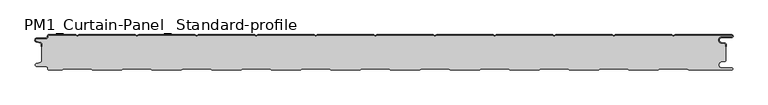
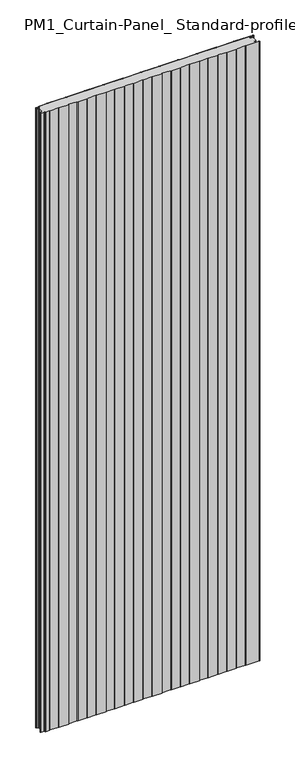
"""IFC4 building model written with IfcOpenShell, lengths in millimetres: plate geometry, PM1_Curtain-Panel_ Standard-profile : ACH_PM1_Acoustic-Sectioning-Panel_60M."""

from ifc_helpers import new_model, si_unit, point, frame, frame_2d, origin, origin_with_axes, place, context, project, spatial, polyline, circle_curve, trimmed, segment, composite_curve, outline, extrude, source, transform, mapped, element, save
from ifc_brep_helpers import plane_surface, cylinder_surface, revolved_surface, advanced_brep


def pm1_curtain_panel_standard_profile_64459d4c(model_context):
    return source(origin(), model_context, "Body", "SolidModel", [
        advanced_brep(
        [(-575.0, -15.878557, 3500.0), (-575.0, -20.0, 3500.0), (-574.2, -20.0, 3500.0), (-574.2, -15.878557, 3500.0), (-576.370137, -13.1503208, 3500.0), (-582.529863, -11.728236, 3500.0), (-581.9, -6.2, 3500.0), (-566.4, -6.2, 3500.0), (-563.6, -3.4, 3500.0), (-563.6, -2.0, 3500.0), (-562.4, -0.8, 3500.0), (-517.3143588, -0.8, 3500.0), (-514.4, -2.482606, 3500.0), (-511.4856412, -0.8, 3500.0), (-417.3143588, -0.8, 3500.0), (-414.4, -2.482606, 3500.0), (-411.4856412, -0.8, 3500.0), (-317.3143588, -0.8, 3500.0), (-314.4, -2.482606, 3500.0), (-311.4856412, -0.8, 3500.0), (-217.3143588, -0.8, 3500.0), (-214.4, -2.482606, 3500.0), (-211.4856412, -0.8, 3500.0), (-117.3143588, -0.8, 3500.0), (-114.4, -2.482606, 3500.0), (-111.4856412, -0.8, 3500.0), (-17.3143588, -0.8, 3500.0), (-14.4, -2.482606, 3500.0), (-11.4856412, -0.8, 3500.0), (82.6856412, -0.8, 3500.0), (85.6, -2.482606, 3500.0), (88.5143588, -0.8, 3500.0), (182.6856412, -0.8, 3500.0), (185.6, -2.482606, 3500.0), (188.5143588, -0.8, 3500.0), (282.6856412, -0.8, 3500.0), (285.6, -2.482606, 3500.0), (288.5143588, -0.8, 3500.0), (382.6856412, -0.8, 3500.0), (385.6, -2.482606, 3500.0), (388.5143588, -0.8, 3500.0), (482.6856412, -0.8, 3500.0), (485.6, -2.482606, 3500.0), (488.5143588, -0.8, 3500.0), (583.1, -0.8, 3500.0), (583.1, -4.2, 3500.0), (566.1, -4.2, 3500.0), (565.2664884, -13.7270771, 3500.0), (571.7125669, -14.8636953, 3500.0), (573.2, -16.6363492, 3500.0), (573.2, -20.0, 3500.0), (574.0, -20.0, 3500.0), (574.0, -16.6363492, 3500.0), (571.8514855, -14.0758491, 3500.0), (565.405407, -12.939231, 3500.0), (566.1, -5.0, 3500.0), (583.1, -5.0, 3500.0), (585.6, -2.5, 3500.0), (583.1, 0.0, 3500.0), (488.2999995, 0.0, 3500.0), (485.6, -1.5588455, 3500.0), (482.9000005, 0.0, 3500.0), (388.2999995, 0.0, 3500.0), (385.6, -1.5588455, 3500.0), (382.9000005, 0.0, 3500.0), (288.2999995, 0.0, 3500.0), (285.6, -1.5588455, 3500.0), (282.9000005, 0.0, 3500.0), (188.2999995, 0.0, 3500.0), (185.6, -1.5588455, 3500.0), (182.9000005, 0.0, 3500.0), (88.2999995, 0.0, 3500.0), (85.6, -1.5588455, 3500.0), (82.9000005, 0.0, 3500.0), (-11.7000005, 0.0, 3500.0), (-14.4, -1.5588455, 3500.0), (-17.0999995, 0.0, 3500.0), (-111.7000005, 0.0, 3500.0), (-114.4, -1.5588455, 3500.0), (-117.0999995, 0.0, 3500.0), (-211.7000005, 0.0, 3500.0), (-214.4, -1.5588455, 3500.0), (-217.0999995, 0.0, 3500.0), (-311.7000005, 0.0, 3500.0), (-314.4, -1.5588455, 3500.0), (-317.0999995, 0.0, 3500.0), (-411.7000005, 0.0, 3500.0), (-414.4, -1.5588455, 3500.0), (-417.0999995, 0.0, 3500.0), (-511.7000005, 0.0, 3500.0), (-514.4, -1.5588455, 3500.0), (-517.0999995, 0.0, 3500.0), (-562.4, 0.0, 3500.0), (-564.4, -2.0, 3500.0), (-564.4, -3.4, 3500.0), (-566.4, -5.4, 3500.0), (-581.9, -5.4, 3500.0), (-582.7098239, -12.5077322, 3500.0), (-576.5500979, -13.929817, 3500.0), (-575.0, -15.878557, 0.0), (-576.5500978, -13.9298169, 0.0), (-582.7098239, -12.507732, 0.0), (-581.9, -5.4, 0.0), (-566.4, -5.4, 0.0), (-564.4, -3.4, 0.0), (-564.4, -2.0, 0.0), (-562.4, 0.0, 0.0), (-517.0999995, 0.0, 0.0), (-514.4, -1.5588455, 0.0), (-511.7000005, 0.0, 0.0), (-417.0999995, 0.0, 0.0), (-414.4, -1.5588455, 0.0), (-411.7000005, 0.0, 0.0), (-317.0999995, 0.0, 0.0), (-314.4, -1.5588455, 0.0), (-311.7000005, 0.0, 0.0), (-217.0999995, 0.0, 0.0), (-214.4, -1.5588455, 0.0), (-211.7000005, 0.0, 0.0), (-117.0999995, 0.0, 0.0), (-114.4, -1.5588455, 0.0), (-111.7000005, 0.0, 0.0), (-17.0999995, 0.0, 0.0), (-14.4, -1.5588455, 0.0), (-11.7000005, 0.0, 0.0), (82.9000005, 0.0, 0.0), (85.6, -1.5588455, 0.0), (88.2999995, 0.0, 0.0), (182.9000005, 0.0, 0.0), (185.6, -1.5588455, 0.0), (188.2999995, 0.0, 0.0), (282.9000005, 0.0, 0.0), (285.6, -1.5588455, 0.0), (288.2999995, 0.0, 0.0), (382.9000005, 0.0, 0.0), (385.6, -1.5588455, 0.0), (388.2999995, 0.0, 0.0), (482.9000005, 0.0, 0.0), (485.6, -1.5588455, 0.0), (488.2999995, 0.0, 0.0), (583.1, 0.0, 0.0), (585.6, -2.5, 0.0), (583.1, -5.0, 0.0), (566.1, -5.0, 0.0), (565.405407, -12.939231, 0.0), (571.8514855, -14.0758491, 0.0), (574.0, -16.6363492, 0.0), (574.0, -20.0, 0.0), (573.2, -20.0, 0.0), (573.2, -16.6363492, 0.0), (571.7125669, -14.8636953, 0.0), (565.2664884, -13.7270772, 0.0), (566.1, -4.2, 0.0), (583.1, -4.2, 0.0), (583.1, -0.8, 0.0), (488.5143588, -0.8, 0.0), (485.6, -2.482606, 0.0), (482.6856412, -0.8, 0.0), (388.5143588, -0.8, 0.0), (385.6, -2.482606, 0.0), (382.6856412, -0.8, 0.0), (288.5143588, -0.8, 0.0), (285.6, -2.482606, 0.0), (282.6856412, -0.8, 0.0), (188.5143588, -0.8, 0.0), (185.6, -2.482606, 0.0), (182.6856412, -0.8, 0.0), (88.5143588, -0.8, 0.0), (85.6, -2.482606, 0.0), (82.6856412, -0.8, 0.0), (-11.4856412, -0.8, 0.0), (-14.4, -2.482606, 0.0), (-17.3143588, -0.8, 0.0), (-111.4856412, -0.8, 0.0), (-114.4, -2.482606, 0.0), (-117.3143588, -0.8, 0.0), (-211.4856412, -0.8, 0.0), (-214.4, -2.482606, 0.0), (-217.3143588, -0.8, 0.0), (-311.4856412, -0.8, 0.0), (-314.4, -2.482606, 0.0), (-317.3143588, -0.8, 0.0), (-411.4856412, -0.8, 0.0), (-414.4, -2.482606, 0.0), (-417.3143588, -0.8, 0.0), (-511.4856412, -0.8, 0.0), (-514.4, -2.482606, 0.0), (-517.3143588, -0.8, 0.0), (-562.4, -0.8, 0.0), (-563.6, -2.0, 0.0), (-563.6, -3.4, 0.0), (-566.4, -6.2, 0.0), (-581.9, -6.2, 0.0), (-582.529863, -11.7282362, 0.0), (-576.370137, -13.150321, 0.0), (-574.2, -15.878557, 0.0), (-574.2, -20.0, 0.0), (-575.0, -20.0, 0.0)],
        [
            (0, 1),
            (1, 2),
            (2, 3),
            (3, 4, circle_curve(frame((-577.0, -15.878557, 3500.0), z_axis=(0.0, 0.0, 1.0), x_axis=(1.0, 0.0, 0.0)), 2.8)),
            (4, 5),
            (5, 6, circle_curve(frame((-581.9, -9.0, 3500.0), z_axis=(0.0, 0.0, -1.0), x_axis=(1.0, 0.0, 0.0)), 2.8)),
            (6, 7),
            (7, 8, circle_curve(frame((-566.4, -3.4, 3500.0), z_axis=(0.0, 0.0, 1.0), x_axis=(1.0, 0.0, 0.0)), 2.8)),
            (8, 9),
            (9, 10, circle_curve(frame((-562.4, -2.0, 3500.0), z_axis=(0.0, 0.0, -1.0), x_axis=(1.0, 0.0, 0.0)), 1.2)),
            (10, 11),
            (11, 12),
            (12, 13),
            (13, 14),
            (14, 15),
            (15, 16),
            (16, 17),
            (17, 18),
            (18, 19),
            (19, 20),
            (20, 21),
            (21, 22),
            (22, 23),
            (23, 24),
            (24, 25),
            (25, 26),
            (26, 27),
            (27, 28),
            (28, 29),
            (29, 30),
            (30, 31),
            (31, 32),
            (32, 33),
            (33, 34),
            (34, 35),
            (35, 36),
            (36, 37),
            (37, 38),
            (38, 39),
            (39, 40),
            (40, 41),
            (41, 42),
            (42, 43),
            (43, 44),
            (44, 45, circle_curve(frame((583.1, -2.5, 3500.0), z_axis=(0.0, 0.0, -1.0), x_axis=(1.0, 0.0, 0.0)), 1.7)),
            (45, 46),
            (46, 47, circle_curve(frame((566.1, -9.0, 3500.0), z_axis=(0.0, 0.0, 1.0), x_axis=(1.0, 0.0, 0.0)), 4.8)),
            (47, 48),
            (48, 49, circle_curve(frame((571.4, -16.6363492, 3500.0), z_axis=(0.0, 0.0, -1.0), x_axis=(1.0, 0.0, 0.0)), 1.8)),
            (49, 50),
            (50, 51),
            (51, 52),
            (52, 53, circle_curve(frame((571.4, -16.6363492, 3500.0), z_axis=(0.0, 0.0, 1.0), x_axis=(1.0, 0.0, 0.0)), 2.6)),
            (53, 54),
            (54, 55, circle_curve(frame((566.1, -9.0, 3500.0), z_axis=(0.0, 0.0, -1.0), x_axis=(1.0, 0.0, 0.0)), 4.0)),
            (55, 56),
            (56, 57, circle_curve(frame((583.1, -2.5, 3500.0), z_axis=(0.0, 0.0, 1.0), x_axis=(1.0, 0.0, 0.0)), 2.5)),
            (57, 58, circle_curve(frame((583.1, -2.5, 3500.0), z_axis=(0.0, 0.0, 1.0), x_axis=(1.0, 0.0, 0.0)), 2.5)),
            (58, 59),
            (59, 60),
            (60, 61),
            (61, 62),
            (62, 63),
            (63, 64),
            (64, 65),
            (65, 66),
            (66, 67),
            (67, 68),
            (68, 69),
            (69, 70),
            (70, 71),
            (71, 72),
            (72, 73),
            (73, 74),
            (74, 75),
            (75, 76),
            (76, 77),
            (77, 78),
            (78, 79),
            (79, 80),
            (80, 81),
            (81, 82),
            (82, 83),
            (83, 84),
            (84, 85),
            (85, 86),
            (86, 87),
            (87, 88),
            (88, 89),
            (89, 90),
            (90, 91),
            (91, 92),
            (92, 93, circle_curve(frame((-562.4, -2.0, 3500.0), z_axis=(0.0, 0.0, 1.0), x_axis=(1.0, 0.0, 0.0)), 2.0)),
            (93, 94),
            (94, 95, circle_curve(frame((-566.4, -3.4, 3500.0), z_axis=(0.0, 0.0, -1.0), x_axis=(1.0, 0.0, 0.0)), 2.0)),
            (95, 96),
            (96, 97, circle_curve(frame((-581.9, -9.0, 3500.0), z_axis=(0.0, 0.0, 1.0), x_axis=(1.0, 0.0, 0.0)), 3.6)),
            (97, 98),
            (98, 0, circle_curve(frame((-577.0, -15.878557, 3500.0), z_axis=(0.0, 0.0, -1.0), x_axis=(1.0, 0.0, 0.0)), 2.0)),
            (99, 100, circle_curve(frame((-577.0, -15.878557, 0.0), z_axis=(0.0, 0.0, 1.0), x_axis=(1.0, 0.0, 0.0)), 2.0)),
            (100, 101),
            (101, 102, circle_curve(frame((-581.9, -9.0, 0.0), z_axis=(0.0, 0.0, -1.0), x_axis=(1.0, 0.0, 0.0)), 3.6)),
            (102, 103),
            (103, 104, circle_curve(frame((-566.4, -3.4, 0.0), z_axis=(0.0, 0.0, 1.0), x_axis=(1.0, 0.0, 0.0)), 2.0)),
            (104, 105),
            (105, 106, circle_curve(frame((-562.4, -2.0, 0.0), z_axis=(0.0, 0.0, -1.0), x_axis=(1.0, 0.0, 0.0)), 2.0)),
            (106, 107),
            (107, 108),
            (108, 109),
            (109, 110),
            (110, 111),
            (111, 112),
            (112, 113),
            (113, 114),
            (114, 115),
            (115, 116),
            (116, 117),
            (117, 118),
            (118, 119),
            (119, 120),
            (120, 121),
            (121, 122),
            (122, 123),
            (123, 124),
            (124, 125),
            (125, 126),
            (126, 127),
            (127, 128),
            (128, 129),
            (129, 130),
            (130, 131),
            (131, 132),
            (132, 133),
            (133, 134),
            (134, 135),
            (135, 136),
            (136, 137),
            (137, 138),
            (138, 139),
            (139, 140),
            (140, 141, circle_curve(frame((583.1, -2.5, 0.0), z_axis=(0.0, 0.0, -1.0), x_axis=(1.0, 0.0, 0.0)), 2.5)),
            (141, 142, circle_curve(frame((583.1, -2.5, 0.0), z_axis=(0.0, 0.0, -1.0), x_axis=(1.0, 0.0, 0.0)), 2.5)),
            (142, 143),
            (143, 144, circle_curve(frame((566.1, -9.0, 0.0), z_axis=(0.0, 0.0, 1.0), x_axis=(1.0, 0.0, 0.0)), 4.0)),
            (144, 145),
            (145, 146, circle_curve(frame((571.4, -16.6363492, 0.0), z_axis=(0.0, 0.0, -1.0), x_axis=(1.0, 0.0, 0.0)), 2.6)),
            (146, 147),
            (147, 148),
            (148, 149),
            (149, 150, circle_curve(frame((571.4, -16.6363492, 0.0), z_axis=(0.0, 0.0, 1.0), x_axis=(1.0, 0.0, 0.0)), 1.8)),
            (150, 151),
            (151, 152, circle_curve(frame((566.1, -9.0, 0.0), z_axis=(0.0, 0.0, -1.0), x_axis=(1.0, 0.0, 0.0)), 4.8)),
            (152, 153),
            (153, 154, circle_curve(frame((583.1, -2.5, 0.0), z_axis=(0.0, 0.0, 1.0), x_axis=(1.0, 0.0, 0.0)), 1.7)),
            (154, 155),
            (155, 156),
            (156, 157),
            (157, 158),
            (158, 159),
            (159, 160),
            (160, 161),
            (161, 162),
            (162, 163),
            (163, 164),
            (164, 165),
            (165, 166),
            (166, 167),
            (167, 168),
            (168, 169),
            (169, 170),
            (170, 171),
            (171, 172),
            (172, 173),
            (173, 174),
            (174, 175),
            (175, 176),
            (176, 177),
            (177, 178),
            (178, 179),
            (179, 180),
            (180, 181),
            (181, 182),
            (182, 183),
            (183, 184),
            (184, 185),
            (185, 186),
            (186, 187),
            (187, 188),
            (188, 189, circle_curve(frame((-562.4, -2.0, 0.0), z_axis=(0.0, 0.0, 1.0), x_axis=(1.0, 0.0, 0.0)), 1.2)),
            (189, 190),
            (190, 191, circle_curve(frame((-566.4, -3.4, 0.0), z_axis=(0.0, 0.0, -1.0), x_axis=(1.0, 0.0, 0.0)), 2.8)),
            (191, 192),
            (192, 193, circle_curve(frame((-581.9, -9.0, 0.0), z_axis=(0.0, 0.0, 1.0), x_axis=(1.0, 0.0, 0.0)), 2.8)),
            (193, 194),
            (194, 195, circle_curve(frame((-577.0, -15.878557, 0.0), z_axis=(0.0, 0.0, -1.0), x_axis=(1.0, 0.0, 0.0)), 2.8)),
            (195, 196),
            (196, 197),
            (197, 99),
            (0, 99),
            (197, 1),
            (196, 2),
            (195, 3),
            (194, 4),
            (193, 5),
            (192, 6),
            (191, 7),
            (190, 8),
            (189, 9),
            (188, 10),
            (187, 11),
            (186, 12),
            (185, 13),
            (184, 14),
            (183, 15),
            (182, 16),
            (181, 17),
            (180, 18),
            (179, 19),
            (178, 20),
            (177, 21),
            (176, 22),
            (175, 23),
            (174, 24),
            (173, 25),
            (172, 26),
            (171, 27),
            (170, 28),
            (169, 29),
            (168, 30),
            (167, 31),
            (166, 32),
            (165, 33),
            (164, 34),
            (163, 35),
            (162, 36),
            (161, 37),
            (160, 38),
            (159, 39),
            (158, 40),
            (157, 41),
            (156, 42),
            (155, 43),
            (154, 44),
            (153, 45),
            (152, 46),
            (151, 47),
            (150, 48),
            (149, 49),
            (148, 50),
            (147, 51),
            (146, 52),
            (145, 53),
            (144, 54),
            (143, 55),
            (142, 56),
            (140, 58),
            (139, 59),
            (138, 60),
            (137, 61),
            (136, 62),
            (135, 63),
            (134, 64),
            (133, 65),
            (132, 66),
            (131, 67),
            (130, 68),
            (129, 69),
            (128, 70),
            (127, 71),
            (126, 72),
            (125, 73),
            (124, 74),
            (123, 75),
            (122, 76),
            (121, 77),
            (120, 78),
            (119, 79),
            (118, 80),
            (117, 81),
            (116, 82),
            (115, 83),
            (114, 84),
            (113, 85),
            (112, 86),
            (111, 87),
            (110, 88),
            (109, 89),
            (108, 90),
            (107, 91),
            (106, 92),
            (105, 93),
            (104, 94),
            (103, 95),
            (102, 96),
            (101, 97),
            (100, 98),
        ],
        [
            plane_surface(frame((-575.0, 0.0, 3500.0), z_axis=(0.0, 0.0, 1.0), x_axis=(0.0, 1.0, 0.0))),
            plane_surface(frame((-575.0, 0.0, 0.0), z_axis=(0.0, 0.0, -1.0), x_axis=(0.0, 1.0, 0.0))),
            plane_surface(frame((-575.0, -15.878557, 3500.0), z_axis=(-1.0, 0.0, 0.0), x_axis=(0.0, 0.0, -1.0))),
            plane_surface(frame((-575.0, -20.0, 3500.0), z_axis=(0.0, -1.0, 0.0), x_axis=(0.0, 0.0, -1.0))),
            plane_surface(frame((-574.2, -20.0, 3500.0), z_axis=(1.0, 0.0, 0.0), x_axis=(0.0, 0.0, -1.0))),
            cylinder_surface(frame((-577.0, -15.878557, 3500.0), z_axis=(0.0, 0.0, 1.0), x_axis=(1.0, 0.0, 0.0)), 2.8),
            plane_surface(frame((-576.370137, -13.150321, 3500.0), z_axis=(0.22495108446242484, 0.9743700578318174, 0.0), x_axis=(0.0, 0.0, -1.0))),
            revolved_surface(polyline([(-579.1, -9.0, 0.0), (-579.1, -9.0, 3500.0)]), (-581.9, -9.0, 3500.0), (0.0, 0.0, -1.0)),
            plane_surface(frame((-581.9, -6.2, 3500.0), z_axis=(0.0, -1.0, 0.0), x_axis=(0.0, 0.0, -1.0))),
            cylinder_surface(frame((-566.4, -3.4, 3500.0), z_axis=(0.0, 0.0, 1.0), x_axis=(1.0, 0.0, 0.0)), 2.8),
            plane_surface(frame((-563.6, -3.4, 3500.0), z_axis=(1.0, 0.0, 0.0), x_axis=(0.0, 0.0, -1.0))),
            revolved_surface(polyline([(-561.1999999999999, -2.0, 0.0), (-561.1999999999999, -2.0, 3500.0)]), (-562.4, -2.0, 3500.0), (0.0, 0.0, -1.0)),
            plane_surface(frame((-562.4, -0.8, 3500.0), z_axis=(0.0, -1.0, 0.0), x_axis=(0.0, 0.0, -1.0))),
            plane_surface(frame((-517.3143588, -0.8, 3500.0), z_axis=(-0.5000000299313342, -0.8660253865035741, 0.0), x_axis=(0.0, 0.0, -1.0))),
            plane_surface(frame((-514.4, -2.482606, 3500.0), z_axis=(0.5000000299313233, -0.8660253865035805, 0.0), x_axis=(0.0, 0.0, -1.0))),
            plane_surface(frame((-511.4856412, -0.8, 3500.0), z_axis=(0.0, -1.0, 0.0), x_axis=(0.0, 0.0, -1.0))),
            plane_surface(frame((-417.3143588, -0.8, 3500.0), z_axis=(-0.5000000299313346, -0.8660253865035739, 0.0), x_axis=(0.0, 0.0, -1.0))),
            plane_surface(frame((-414.4, -2.482606, 3500.0), z_axis=(0.5000000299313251, -0.8660253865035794, 0.0), x_axis=(0.0, 0.0, -1.0))),
            plane_surface(frame((-411.4856412, -0.8, 3500.0), z_axis=(0.0, -1.0, 0.0), x_axis=(0.0, 0.0, -1.0))),
            plane_surface(frame((-317.3143588, -0.8, 3500.0), z_axis=(-0.5000000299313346, -0.866025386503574, 0.0), x_axis=(0.0, 0.0, -1.0))),
            plane_surface(frame((-314.4, -2.482606, 3500.0), z_axis=(0.5000000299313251, -0.8660253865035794, 0.0), x_axis=(0.0, 0.0, -1.0))),
            plane_surface(frame((-311.4856412, -0.8, 3500.0), z_axis=(0.0, -1.0, 0.0), x_axis=(0.0, 0.0, -1.0))),
            plane_surface(frame((-217.3143588, -0.8, 3500.0), z_axis=(-0.5000000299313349, -0.8660253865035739, 0.0), x_axis=(0.0, 0.0, -1.0))),
            plane_surface(frame((-214.4, -2.482606, 3500.0), z_axis=(0.5000000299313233, -0.8660253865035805, 0.0), x_axis=(0.0, 0.0, -1.0))),
            plane_surface(frame((-211.4856412, -0.8, 3500.0), z_axis=(0.0, -1.0, 0.0), x_axis=(0.0, 0.0, -1.0))),
            plane_surface(frame((-117.3143588, -0.8, 3500.0), z_axis=(-0.5000000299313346, -0.866025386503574, 0.0), x_axis=(0.0, 0.0, -1.0))),
            plane_surface(frame((-114.4, -2.482606, 3500.0), z_axis=(0.5000000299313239, -0.8660253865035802, 0.0), x_axis=(0.0, 0.0, -1.0))),
            plane_surface(frame((-111.4856412, -0.8, 3500.0), z_axis=(0.0, -1.0, 0.0), x_axis=(0.0, 0.0, -1.0))),
            plane_surface(frame((-17.3143588, -0.8, 3500.0), z_axis=(-0.5000000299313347, -0.8660253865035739, 0.0), x_axis=(0.0, 0.0, -1.0))),
            plane_surface(frame((-14.4, -2.482606, 3500.0), z_axis=(0.5000000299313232, -0.8660253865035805, 0.0), x_axis=(0.0, 0.0, -1.0))),
            plane_surface(frame((-11.4856412, -0.8, 3500.0), z_axis=(0.0, -1.0, 0.0), x_axis=(0.0, 0.0, -1.0))),
            plane_surface(frame((82.6856412, -0.8, 3500.0), z_axis=(-0.5000000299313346, -0.866025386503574, 0.0), x_axis=(0.0, 0.0, -1.0))),
            plane_surface(frame((85.6, -2.482606, 3500.0), z_axis=(0.5000000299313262, -0.8660253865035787, 0.0), x_axis=(0.0, 0.0, -1.0))),
            plane_surface(frame((88.5143588, -0.8, 3500.0), z_axis=(0.0, -1.0, 0.0), x_axis=(0.0, 0.0, -1.0))),
            plane_surface(frame((182.6856412, -0.8, 3500.0), z_axis=(-0.5000000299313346, -0.8660253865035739, 0.0), x_axis=(0.0, 0.0, -1.0))),
            plane_surface(frame((185.6, -2.482606, 3500.0), z_axis=(0.5000000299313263, -0.8660253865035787, 0.0), x_axis=(0.0, 0.0, -1.0))),
            plane_surface(frame((188.5143588, -0.8, 3500.0), z_axis=(0.0, -1.0, 0.0), x_axis=(0.0, 0.0, -1.0))),
            plane_surface(frame((282.6856412, -0.8, 3500.0), z_axis=(-0.5000000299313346, -0.8660253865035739, 0.0), x_axis=(0.0, 0.0, -1.0))),
            plane_surface(frame((285.6, -2.482606, 3500.0), z_axis=(0.5000000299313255, -0.8660253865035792, 0.0), x_axis=(0.0, 0.0, -1.0))),
            plane_surface(frame((288.5143588, -0.8, 3500.0), z_axis=(0.0, -1.0, 0.0), x_axis=(0.0, 0.0, -1.0))),
            plane_surface(frame((382.6856412, -0.8, 3500.0), z_axis=(-0.5000000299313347, -0.8660253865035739, 0.0), x_axis=(0.0, 0.0, -1.0))),
            plane_surface(frame((385.6, -2.482606, 3500.0), z_axis=(0.5000000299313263, -0.8660253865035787, 0.0), x_axis=(0.0, 0.0, -1.0))),
            plane_surface(frame((388.5143588, -0.8, 3500.0), z_axis=(0.0, -1.0, 0.0), x_axis=(0.0, 0.0, -1.0))),
            plane_surface(frame((482.6856412, -0.8, 3500.0), z_axis=(-0.5000000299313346, -0.866025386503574, 0.0), x_axis=(0.0, 0.0, -1.0))),
            plane_surface(frame((485.6, -2.482606, 3500.0), z_axis=(0.5000000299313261, -0.8660253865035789, 0.0), x_axis=(0.0, 0.0, -1.0))),
            plane_surface(frame((535.6, -0.8, 3500.0), z_axis=(0.0, -1.0, 0.0), x_axis=(0.0, 0.0, -1.0))),
            revolved_surface(polyline([(584.8000000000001, -2.5, 0.0), (584.8000000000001, -2.5, 3500.0)]), (583.1, -2.5, 3500.0), (0.0, 0.0, -1.0)),
            plane_surface(frame((583.1, -4.2, 3500.0), z_axis=(0.0, 1.0, 0.0), x_axis=(0.0, 0.0, -1.0))),
            cylinder_surface(frame((566.1, -9.0, 3500.0), z_axis=(0.0, 0.0, 1.0), x_axis=(1.0, 0.0, 0.0)), 4.8),
            plane_surface(frame((565.2664884, -13.7270772, 3500.0), z_axis=(-0.17364825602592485, -0.9848077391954, 0.0), x_axis=(0.0, 0.0, -1.0))),
            revolved_surface(polyline([(573.1999999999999, -16.6363492, 0.0), (573.1999999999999, -16.6363492, 3500.0)]), (571.4, -16.6363492, 3500.0), (0.0, 0.0, -1.0)),
            plane_surface(frame((573.2, -16.6363492, 3500.0), z_axis=(-1.0, 0.0, 0.0), x_axis=(0.0, 0.0, -1.0))),
            plane_surface(frame((573.2, -20.0, 3500.0), z_axis=(0.0, -1.0, 0.0), x_axis=(0.0, 0.0, -1.0))),
            plane_surface(frame((574.0, -20.0, 3500.0), z_axis=(1.0, 0.0, 0.0), x_axis=(0.0, 0.0, -1.0))),
            cylinder_surface(frame((571.4, -16.6363492, 3500.0), z_axis=(0.0, 0.0, 1.0), x_axis=(1.0, 0.0, 0.0)), 2.6),
            plane_surface(frame((571.8514855, -14.0758491, 3500.0), z_axis=(0.1736482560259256, 0.9848077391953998, 0.0), x_axis=(0.0, 0.0, -1.0))),
            revolved_surface(polyline([(570.1, -9.0, 0.0), (570.1, -9.0, 3500.0)]), (566.1, -9.0, 3500.0), (0.0, 0.0, -1.0)),
            plane_surface(frame((566.1, -5.0, 3500.0), z_axis=(0.0, -1.0, 0.0), x_axis=(0.0, 0.0, -1.0))),
            cylinder_surface(frame((583.1, -2.5, 3500.0), z_axis=(0.0, 0.0, 1.0), x_axis=(1.0, 0.0, 0.0)), 2.5),
            plane_surface(frame((535.6, 0.0, 3500.0), z_axis=(0.0, 1.0, 0.0), x_axis=(0.0, 0.0, -1.0))),
            plane_surface(frame((488.2999995, 0.0, 3500.0), z_axis=(-0.5000000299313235, 0.8660253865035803, 0.0), x_axis=(0.0, 0.0, -1.0))),
            plane_surface(frame((485.6, -1.5588455, 3500.0), z_axis=(0.5000000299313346, 0.8660253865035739, 0.0), x_axis=(0.0, 0.0, -1.0))),
            plane_surface(frame((482.9000005, 0.0, 3500.0), z_axis=(0.0, 1.0, 0.0), x_axis=(0.0, 0.0, -1.0))),
            plane_surface(frame((388.2999995, 0.0, 3500.0), z_axis=(-0.5000000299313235, 0.8660253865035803, 0.0), x_axis=(0.0, 0.0, -1.0))),
            plane_surface(frame((385.6, -1.5588455, 3500.0), z_axis=(0.5000000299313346, 0.8660253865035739, 0.0), x_axis=(0.0, 0.0, -1.0))),
            plane_surface(frame((382.9000005, 0.0, 3500.0), z_axis=(0.0, 1.0, 0.0), x_axis=(0.0, 0.0, -1.0))),
            plane_surface(frame((288.2999995, 0.0, 3500.0), z_axis=(-0.5000000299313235, 0.8660253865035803, 0.0), x_axis=(0.0, 0.0, -1.0))),
            plane_surface(frame((285.6, -1.5588455, 3500.0), z_axis=(0.5000000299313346, 0.8660253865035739, 0.0), x_axis=(0.0, 0.0, -1.0))),
            plane_surface(frame((282.9000005, 0.0, 3500.0), z_axis=(0.0, 1.0, 0.0), x_axis=(0.0, 0.0, -1.0))),
            plane_surface(frame((188.2999995, 0.0, 3500.0), z_axis=(-0.5000000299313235, 0.8660253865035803, 0.0), x_axis=(0.0, 0.0, -1.0))),
            plane_surface(frame((185.6, -1.5588455, 3500.0), z_axis=(0.5000000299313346, 0.8660253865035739, 0.0), x_axis=(0.0, 0.0, -1.0))),
            plane_surface(frame((182.9000005, 0.0, 3500.0), z_axis=(0.0, 1.0, 0.0), x_axis=(0.0, 0.0, -1.0))),
            plane_surface(frame((88.2999995, 0.0, 3500.0), z_axis=(-0.5000000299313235, 0.8660253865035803, 0.0), x_axis=(0.0, 0.0, -1.0))),
            plane_surface(frame((85.6, -1.5588455, 3500.0), z_axis=(0.5000000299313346, 0.8660253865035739, 0.0), x_axis=(0.0, 0.0, -1.0))),
            plane_surface(frame((82.9000005, 0.0, 3500.0), z_axis=(0.0, 1.0, 0.0), x_axis=(0.0, 0.0, -1.0))),
            plane_surface(frame((-11.7000005, 0.0, 3500.0), z_axis=(-0.5000000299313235, 0.8660253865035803, 0.0), x_axis=(0.0, 0.0, -1.0))),
            plane_surface(frame((-14.4, -1.5588455, 3500.0), z_axis=(0.5000000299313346, 0.8660253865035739, 0.0), x_axis=(0.0, 0.0, -1.0))),
            plane_surface(frame((-17.0999995, 0.0, 3500.0), z_axis=(0.0, 1.0, 0.0), x_axis=(0.0, 0.0, -1.0))),
            plane_surface(frame((-111.7000005, 0.0, 3500.0), z_axis=(-0.5000000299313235, 0.8660253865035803, 0.0), x_axis=(0.0, 0.0, -1.0))),
            plane_surface(frame((-114.4, -1.5588455, 3500.0), z_axis=(0.5000000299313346, 0.8660253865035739, 0.0), x_axis=(0.0, 0.0, -1.0))),
            plane_surface(frame((-117.0999995, 0.0, 3500.0), z_axis=(0.0, 1.0, 0.0), x_axis=(0.0, 0.0, -1.0))),
            plane_surface(frame((-211.7000005, 0.0, 3500.0), z_axis=(-0.5000000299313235, 0.8660253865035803, 0.0), x_axis=(0.0, 0.0, -1.0))),
            plane_surface(frame((-214.4, -1.5588455, 3500.0), z_axis=(0.5000000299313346, 0.8660253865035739, 0.0), x_axis=(0.0, 0.0, -1.0))),
            plane_surface(frame((-217.0999995, 0.0, 3500.0), z_axis=(0.0, 1.0, 0.0), x_axis=(0.0, 0.0, -1.0))),
            plane_surface(frame((-311.7000005, 0.0, 3500.0), z_axis=(-0.5000000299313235, 0.8660253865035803, 0.0), x_axis=(0.0, 0.0, -1.0))),
            plane_surface(frame((-314.4, -1.5588455, 3500.0), z_axis=(0.5000000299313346, 0.8660253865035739, 0.0), x_axis=(0.0, 0.0, -1.0))),
            plane_surface(frame((-317.0999995, 0.0, 3500.0), z_axis=(0.0, 1.0, 0.0), x_axis=(0.0, 0.0, -1.0))),
            plane_surface(frame((-411.7000005, 0.0, 3500.0), z_axis=(-0.5000000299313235, 0.8660253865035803, 0.0), x_axis=(0.0, 0.0, -1.0))),
            plane_surface(frame((-414.4, -1.5588455, 3500.0), z_axis=(0.5000000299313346, 0.8660253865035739, 0.0), x_axis=(0.0, 0.0, -1.0))),
            plane_surface(frame((-417.0999995, 0.0, 3500.0), z_axis=(0.0, 1.0, 0.0), x_axis=(0.0, 0.0, -1.0))),
            plane_surface(frame((-511.7000005, 0.0, 3500.0), z_axis=(-0.5000000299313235, 0.8660253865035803, 0.0), x_axis=(0.0, 0.0, -1.0))),
            plane_surface(frame((-514.4, -1.5588455, 3500.0), z_axis=(0.5000000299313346, 0.8660253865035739, 0.0), x_axis=(0.0, 0.0, -1.0))),
            plane_surface(frame((-517.0999995, 0.0, 3500.0), z_axis=(0.0, 1.0, 0.0), x_axis=(0.0, 0.0, -1.0))),
            cylinder_surface(frame((-562.4, -2.0, 3500.0), z_axis=(0.0, 0.0, 1.0), x_axis=(1.0, 0.0, 0.0)), 2.0),
            plane_surface(frame((-564.4, -2.0, 3500.0), z_axis=(-1.0, 0.0, 0.0), x_axis=(0.0, 0.0, -1.0))),
            revolved_surface(polyline([(-564.4, -3.4, 0.0), (-564.4, -3.4, 3500.0)]), (-566.4, -3.4, 3500.0), (0.0, 0.0, -1.0)),
            plane_surface(frame((-566.4, -5.4, 3500.0), z_axis=(0.0, 1.0, 0.0), x_axis=(0.0, 0.0, -1.0))),
            cylinder_surface(frame((-581.9, -9.0, 3500.0), z_axis=(0.0, 0.0, 1.0), x_axis=(1.0, 0.0, 0.0)), 3.6),
            plane_surface(frame((-582.7098239, -12.507732, 3500.0), z_axis=(-0.22495108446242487, -0.9743700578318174, 0.0), x_axis=(0.0, 0.0, -1.0))),
            revolved_surface(polyline([(-575.0, -15.878557, 0.0), (-575.0, -15.878557, 3500.0)]), (-577.0, -15.878557, 3500.0), (0.0, 0.0, -1.0)),
        ],
        [
            (0, [[1, 2, 3, 4, 5, 6, 7, 8, 9, 10, 11, 12, 13, 14, 15, 16, 17, 18, 19, 20, 21, 22, 23, 24, 25, 26, 27, 28, 29, 30, 31, 32, 33, 34, 35, 36, 37, 38, 39, 40, 41, 42, 43, 44, 45, 46, 47, 48, 49, 50, 51, 52, 53, 54, 55, 56, 57, 58, 59, 60, 61, 62, 63, 64, 65, 66, 67, 68, 69, 70, 71, 72, 73, 74, 75, 76, 77, 78, 79, 80, 81, 82, 83, 84, 85, 86, 87, 88, 89, 90, 91, 92, 93, 94, 95, 96, 97, 98, 99]]),
            (1, [[100, 101, 102, 103, 104, 105, 106, 107, 108, 109, 110, 111, 112, 113, 114, 115, 116, 117, 118, 119, 120, 121, 122, 123, 124, 125, 126, 127, 128, 129, 130, 131, 132, 133, 134, 135, 136, 137, 138, 139, 140, 141, 142, 143, 144, 145, 146, 147, 148, 149, 150, 151, 152, 153, 154, 155, 156, 157, 158, 159, 160, 161, 162, 163, 164, 165, 166, 167, 168, 169, 170, 171, 172, 173, 174, 175, 176, 177, 178, 179, 180, 181, 182, 183, 184, 185, 186, 187, 188, 189, 190, 191, 192, 193, 194, 195, 196, 197, 198]]),
            (2, [[-1, 199, -198, 200]]),
            (3, [[-2, -200, -197, 201]]),
            (4, [[-3, -201, -196, 202]]),
            (5, [[-4, -202, -195, 203]]),
            (6, [[-5, -203, -194, 204]]),
            (7, [[-6, -204, -193, 205]]),
            (8, [[-7, -205, -192, 206]]),
            (9, [[-8, -206, -191, 207]]),
            (10, [[-9, -207, -190, 208]]),
            (11, [[-10, -208, -189, 209]]),
            (12, [[-11, -209, -188, 210]]),
            (13, [[-12, -210, -187, 211]]),
            (14, [[-13, -211, -186, 212]]),
            (15, [[-14, -212, -185, 213]]),
            (16, [[-15, -213, -184, 214]]),
            (17, [[-16, -214, -183, 215]]),
            (18, [[-17, -215, -182, 216]]),
            (19, [[-18, -216, -181, 217]]),
            (20, [[-19, -217, -180, 218]]),
            (21, [[-20, -218, -179, 219]]),
            (22, [[-21, -219, -178, 220]]),
            (23, [[-22, -220, -177, 221]]),
            (24, [[-23, -221, -176, 222]]),
            (25, [[-24, -222, -175, 223]]),
            (26, [[-25, -223, -174, 224]]),
            (27, [[-26, -224, -173, 225]]),
            (28, [[-27, -225, -172, 226]]),
            (29, [[-28, -226, -171, 227]]),
            (30, [[-29, -227, -170, 228]]),
            (31, [[-30, -228, -169, 229]]),
            (32, [[-31, -229, -168, 230]]),
            (33, [[-32, -230, -167, 231]]),
            (34, [[-33, -231, -166, 232]]),
            (35, [[-34, -232, -165, 233]]),
            (36, [[-35, -233, -164, 234]]),
            (37, [[-36, -234, -163, 235]]),
            (38, [[-37, -235, -162, 236]]),
            (39, [[-38, -236, -161, 237]]),
            (40, [[-39, -237, -160, 238]]),
            (41, [[-40, -238, -159, 239]]),
            (42, [[-41, -239, -158, 240]]),
            (43, [[-42, -240, -157, 241]]),
            (44, [[-43, -241, -156, 242]]),
            (45, [[-44, -242, -155, 243]]),
            (46, [[-45, -243, -154, 244]]),
            (47, [[-46, -244, -153, 245]]),
            (48, [[-47, -245, -152, 246]]),
            (49, [[-48, -246, -151, 247]]),
            (50, [[-49, -247, -150, 248]]),
            (51, [[-50, -248, -149, 249]]),
            (52, [[-51, -249, -148, 250]]),
            (53, [[-52, -250, -147, 251]]),
            (54, [[-53, -251, -146, 252]]),
            (55, [[-54, -252, -145, 253]]),
            (56, [[-55, -253, -144, 254]]),
            (57, [[-56, -254, -143, 255]]),
            (58, [[-255, -142, -141, 256, -58, -57]]),
            (59, [[-59, -256, -140, 257]]),
            (60, [[-60, -257, -139, 258]]),
            (61, [[-61, -258, -138, 259]]),
            (62, [[-62, -259, -137, 260]]),
            (63, [[-63, -260, -136, 261]]),
            (64, [[-64, -261, -135, 262]]),
            (65, [[-65, -262, -134, 263]]),
            (66, [[-66, -263, -133, 264]]),
            (67, [[-67, -264, -132, 265]]),
            (68, [[-68, -265, -131, 266]]),
            (69, [[-69, -266, -130, 267]]),
            (70, [[-70, -267, -129, 268]]),
            (71, [[-71, -268, -128, 269]]),
            (72, [[-72, -269, -127, 270]]),
            (73, [[-73, -270, -126, 271]]),
            (74, [[-74, -271, -125, 272]]),
            (75, [[-75, -272, -124, 273]]),
            (76, [[-76, -273, -123, 274]]),
            (77, [[-77, -274, -122, 275]]),
            (78, [[-78, -275, -121, 276]]),
            (79, [[-79, -276, -120, 277]]),
            (80, [[-80, -277, -119, 278]]),
            (81, [[-81, -278, -118, 279]]),
            (82, [[-82, -279, -117, 280]]),
            (83, [[-83, -280, -116, 281]]),
            (84, [[-84, -281, -115, 282]]),
            (85, [[-85, -282, -114, 283]]),
            (86, [[-86, -283, -113, 284]]),
            (87, [[-87, -284, -112, 285]]),
            (88, [[-88, -285, -111, 286]]),
            (89, [[-89, -286, -110, 287]]),
            (90, [[-90, -287, -109, 288]]),
            (91, [[-91, -288, -108, 289]]),
            (92, [[-92, -289, -107, 290]]),
            (93, [[-93, -290, -106, 291]]),
            (94, [[-94, -291, -105, 292]]),
            (95, [[-95, -292, -104, 293]]),
            (96, [[-96, -293, -103, 294]]),
            (97, [[-97, -294, -102, 295]]),
            (98, [[-98, -295, -101, 296]]),
            (99, [[-99, -296, -100, -199]]),
        ],
    ),
        extrude(outline(composite_curve([segment(polyline([(-574.2, -44.121443), (-574.2, -15.8785573)]), True, "CONTINUOUS"), segment(trimmed(circle_curve(frame_2d((-577.0, -15.8785573)), 2.8), [point((-574.2, -15.8785573))], [point((-576.370137, -13.1503212))], True, "CARTESIAN"), True, "CONTINUOUS"), segment(polyline([(-576.370137, -13.1503212), (-582.5298631, -11.7282362)]), True, "CONTINUOUS"), segment(trimmed(circle_curve(frame_2d((-581.9, -9.0)), 2.8), [point((-582.5298631, -11.7282362))], [point((-581.9, -6.2))], False, "CARTESIAN"), True, "CONTINUOUS"), segment(polyline([(-581.9, -6.2), (-566.4000001, -6.2)]), True, "CONTINUOUS"), segment(trimmed(circle_curve(frame_2d((-566.4000001, -3.4)), 2.8), [point((-566.4000001, -6.2))], [point((-563.6000001, -3.4))], True, "CARTESIAN"), True, "CONTINUOUS"), segment(polyline([(-563.6000001, -3.4), (-563.6000001, -2.0)]), True, "CONTINUOUS"), segment(trimmed(circle_curve(frame_2d((-562.4000001, -2.0)), 1.2), [point((-563.6000001, -2.0))], [point((-562.4000001, -0.8))], False, "CARTESIAN"), True, "CONTINUOUS"), segment(polyline([(-562.4000001, -0.8), (-517.3143589, -0.8), (-514.4000001, -2.482606), (-511.4856412, -0.8), (-417.3143589, -0.8), (-414.4000001, -2.482606), (-411.4856412, -0.8), (-317.3143589, -0.8), (-314.4000001, -2.482606), (-311.4856412, -0.8), (-217.3143589, -0.8), (-214.4000001, -2.482606), (-211.4856412, -0.8), (-117.3143589, -0.8), (-114.4000001, -2.482606), (-111.4856412, -0.8), (-17.3143589, -0.8), (-14.4000001, -2.482606), (-11.4856412, -0.8), (82.6856411, -0.8), (85.5999999, -2.482606), (88.5143588, -0.8), (182.6856411, -0.8), (185.5999999, -2.482606), (188.5143588, -0.8), (282.6856411, -0.8), (285.5999999, -2.482606), (288.5143588, -0.8), (382.6856411, -0.8), (385.5999999, -2.482606), (388.5143588, -0.8), (482.6856411, -0.8), (485.6, -2.482606), (488.5143588, -0.8), (583.1, -0.8)]), True, "CONTINUOUS"), segment(trimmed(circle_curve(frame_2d((583.1, -2.5)), 1.7), [point((583.1, -0.8))], [point((583.1, -4.2))], False, "CARTESIAN"), True, "CONTINUOUS"), segment(polyline([(583.1, -4.2), (566.1, -4.2)]), True, "CONTINUOUS"), segment(trimmed(circle_curve(frame_2d((566.1, -9.0)), 4.8), [point((566.1, -4.2))], [point((565.2664883, -13.7270771))], True, "CARTESIAN"), True, "CONTINUOUS"), segment(polyline([(565.2664883, -13.7270771), (571.7125668, -14.8636953)]), True, "CONTINUOUS"), segment(trimmed(circle_curve(frame_2d((571.4, -16.6363492)), 1.8), [point((571.7125668, -14.8636953))], [point((573.2, -16.6363492))], False, "CARTESIAN"), True, "CONTINUOUS"), segment(polyline([(573.2, -16.6363492), (573.2, -43.363652)]), True, "CONTINUOUS"), segment(trimmed(circle_curve(frame_2d((571.4, -43.363652)), 1.8), [point((573.2, -43.363652))], [point((571.7125666, -45.1363059))], False, "CARTESIAN"), True, "CONTINUOUS"), segment(polyline([(571.7125666, -45.1363059), (565.266489, -46.272923)]), True, "CONTINUOUS"), segment(trimmed(circle_curve(frame_2d((566.1, -51.0000002)), 4.7999999), [point((565.266489, -46.272923))], [point((566.1, -55.8000001))], True, "CARTESIAN"), True, "CONTINUOUS"), segment(polyline([(566.1, -55.8000001), (583.1, -55.8000001)]), True, "CONTINUOUS"), segment(trimmed(circle_curve(frame_2d((583.1, -57.5)), 1.7), [point((583.1, -55.8000001))], [point((583.1, -59.2))], False, "CARTESIAN"), True, "CONTINUOUS"), segment(polyline([(583.1, -59.2), (510.8105122, -59.2), (508.2124346, -57.7), (462.9837184, -57.7), (460.3856408, -59.2), (410.8105122, -59.2), (408.2124346, -57.7), (362.9837184, -57.7), (360.3856408, -59.2), (310.8105122, -59.2), (308.2124346, -57.7), (262.9837184, -57.7), (260.3856408, -59.2), (210.8105122, -59.2), (208.2124346, -57.7), (162.9837184, -57.7), (160.3856408, -59.2), (110.8105122, -59.2), (108.2124346, -57.7), (62.9837184, -57.7), (60.3856408, -59.2), (10.8105122, -59.2), (8.2124346, -57.7), (-37.0162816, -57.7), (-39.6143592, -59.2), (-89.1894878, -59.2), (-91.7875654, -57.7), (-137.0162816, -57.7), (-139.6143592, -59.2), (-189.1894878, -59.2), (-191.7875654, -57.7), (-237.0162816, -57.7), (-239.6143592, -59.2), (-289.1894878, -59.2), (-291.7875654, -57.7), (-337.0162816, -57.7), (-339.6143592, -59.2), (-389.1894878, -59.2), (-391.7875654, -57.7), (-437.0162816, -57.7), (-439.6143592, -59.2), (-489.1894878, -59.2), (-491.7875654, -57.7), (-537.0162816, -57.7), (-539.6143592, -59.2), (-562.4, -59.2)]), True, "CONTINUOUS"), segment(trimmed(circle_curve(frame_2d((-562.4, -58.0)), 1.2), [point((-562.4, -59.2))], [point((-563.6, -58.0))], False, "CARTESIAN"), True, "CONTINUOUS"), segment(polyline([(-563.6, -58.0), (-563.6, -56.5999998)]), True, "CONTINUOUS"), segment(trimmed(circle_curve(frame_2d((-566.4, -56.5999998)), 2.8), [point((-563.6, -56.5999998))], [point((-566.4, -53.7999998))], True, "CARTESIAN"), True, "CONTINUOUS"), segment(polyline([(-566.4, -53.7999998), (-581.9, -53.7999998)]), True, "CONTINUOUS"), segment(trimmed(circle_curve(frame_2d((-581.9, -51.0)), 2.7999998), [point((-581.9, -53.7999998))], [point((-582.529863, -48.271764))], False, "CARTESIAN"), True, "CONTINUOUS"), segment(polyline([(-582.529863, -48.271764), (-576.370137, -46.8496792)]), True, "CONTINUOUS"), segment(trimmed(circle_curve(frame_2d((-577.0, -44.121443)), 2.8), [point((-576.370137, -46.8496792))], [point((-574.2, -44.121443))], True, "CARTESIAN"), True, "CONTINUOUS")], self_intersect=False)), origin_with_axes(), (0.0, 0.0, 1.0), 3500.0),
    ])


if __name__ == "__main__":
    model = new_model("IFC4")
    model_context = context("Model", 3, world=origin())
    ifc_project = project(units=[si_unit("LENGTHUNIT", "METRE", prefix="MILLI")], contexts=[model_context])
    site = spatial("IfcSite", under=ifc_project)
    building = spatial("IfcBuilding", under=site)
    placement = place(None, origin())
    pm1_curtain_panel_standard_profile_shape = pm1_curtain_panel_standard_profile_64459d4c(model_context)
    element("IfcPlate", 1, ObjectType="PM1_Curtain-Panel_ Standard-profile : ACH_PM1_Acoustic-Sectioning-Panel_60M", at=placement, inside=building, context=model_context, shape_type="MappedRepresentation", body=[
        mapped(pm1_curtain_panel_standard_profile_shape, transform((0.0, 0.0, 0.0), x_axis=(1.0, 0.0, 0.0), y_axis=(0.0, 1.0, 0.0), z_axis=(0.0, 0.0, 1.0))),
    ])
    save(model, "model.ifc")
